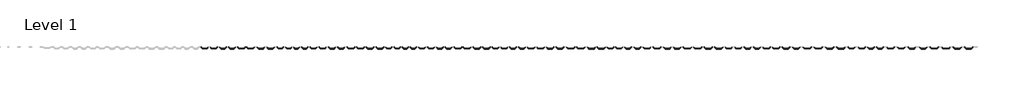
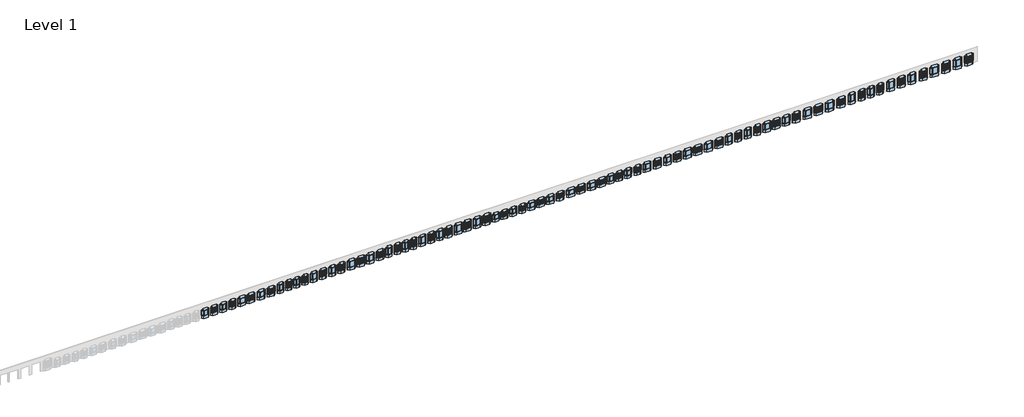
# One storey, part 3 of 3: 80 windows.
"""IFC4 building model written with IfcOpenShell, lengths in millimetres."""

from ifc_helpers import new_model, si_unit, origin, place, context, project, spatial, transform, mapped, element, save
from components import window_b3cdb5a9, window_79abd984, window_b84ada9c, window_0a0b4244, window_ffd23e29, window_b7071a71, window_51384c38, window_a97668ed, window_4685a1be, window_b467f3d1, window_911a515b, window_a070897f, window_e42af8b7, window_e2e8d029, window_58309fd9, window_9b99bb87, window_9a71cae8, window_7f477332, window_fa37bd7c, window_9950a577, window_3bc9b1b7, window_d25a807c, window_addcb749, window_82c581ba, window_94679562, window_69b66f9a, window_eb827597, window_abdb0844, window_93243faa, window_77bf9d07, window_c10b418e, window_131a28d9, window_a5539cdd, window_bb3dbd00, window_e7f25935, window_85a7261f, window_b54664bb, window_ae849061, window_5621af8d, window_e6824027, window_450d49d1, window_b217e473, window_dcdb2d5c, window_eaa9a0c1, window_20f38846, window_5c7470a3, window_c93a87d1, window_a6beb64d, window_daea6f64, window_c85f83c4, window_12b3202e, window_4e539d59, window_95a81073, window_6308ce5a, window_9d663ffc, window_a5e491d9, window_10bc7acf, window_82674c59, window_b25b2941, window_9915bfea, window_99be7a66, window_0feb7d22, window_bf1c5495, window_cf54c3e9, window_64da6ce3, window_401ed5cd, window_cd033d19, window_9ae6f43e, window_1f869f44, window_09736f41, window_0206066c, window_1608441a, window_fa84ad74, window_845785dd, window_687f70c3, window_4135a6ea, window_84a63f59, window_98602385, window_b4091702, window_76903604

model = new_model("IFC4")

# Units and contexts
model_context = context("Model", 3, world=origin())
ifc_project = project(units=[si_unit("LENGTHUNIT", "METRE", prefix="MILLI")], contexts=[model_context])

# Site, building, storey
site = spatial("IfcSite", under=ifc_project)
building = spatial("IfcBuilding", under=site)
storey = spatial("IfcBuildingStorey", under=building, Name="Level 1", Elevation=0.0)

# Windows
placement = place(None, origin())
window_shape = window_b3cdb5a9(model_context)
element("IfcWindow", 1, ObjectType="Pollard_Windows_Tudor Casement Bows and Bays : AML-BAY 45 AFR0514-10-500", at=placement, inside=storey, context=model_context, shape_type="MappedRepresentation", body=[
    mapped(window_shape, transform((183351.4233676, -2742.926046, 0.0), x_axis=(1.0, 0.0, 0.0), y_axis=(0.0, 1.0, 0.0), z_axis=(0.0, 0.0, 1.0))),
])
window_2_shape = window_79abd984(model_context)
element("IfcWindow", 2, ObjectType="Pollard_Windows_Tudor Casement Bows and Bays : AML-BAY 45 AFR0514-10-500_GC", at=placement, inside=storey, context=model_context, shape_type="MappedRepresentation", body=[
    mapped(window_2_shape, transform((185751.4233676, -2742.926046, 0.0), x_axis=(1.0, 0.0, 0.0), y_axis=(0.0, 1.0, 0.0), z_axis=(0.0, 0.0, 1.0))),
])
window_3_shape = window_b84ada9c(model_context)
element("IfcWindow", 3, ObjectType="Pollard_Windows_Tudor Casement Bows and Bays : AML-BAY 45 AFR0514-10-600", at=placement, inside=storey, context=model_context, shape_type="MappedRepresentation", body=[
    mapped(window_3_shape, transform((188151.4233676, -2742.926046, 0.0), x_axis=(1.0, 0.0, 0.0), y_axis=(0.0, 1.0, 0.0), z_axis=(0.0, 0.0, 1.0))),
])
window_4_shape = window_0a0b4244(model_context)
element("IfcWindow", 4, ObjectType="Pollard_Windows_Tudor Casement Bows and Bays : AML-BAY 45 AFR0514-10-600_GC", at=placement, inside=storey, context=model_context, shape_type="MappedRepresentation", body=[
    mapped(window_4_shape, transform((190551.4233676, -2742.926046, 0.0), x_axis=(1.0, 0.0, 0.0), y_axis=(0.0, 1.0, 0.0), z_axis=(0.0, 0.0, 1.0))),
])
window_5_shape = window_ffd23e29(model_context)
element("IfcWindow", 5, ObjectType="Pollard_Windows_Tudor Casement Bows and Bays : AML-BAY 45 AFR0514-12-500", at=placement, inside=storey, context=model_context, shape_type="MappedRepresentation", body=[
    mapped(window_5_shape, transform((193051.4233676, -2742.926046, 0.0), x_axis=(1.0, 0.0, 0.0), y_axis=(0.0, 1.0, 0.0), z_axis=(0.0, 0.0, 1.0))),
])
window_6_shape = window_b7071a71(model_context)
element("IfcWindow", 6, ObjectType="Pollard_Windows_Tudor Casement Bows and Bays : AML-BAY 45 AFR0514-12-500_GC", at=placement, inside=storey, context=model_context, shape_type="MappedRepresentation", body=[
    mapped(window_6_shape, transform((195451.4233676, -2742.926046, 0.0), x_axis=(1.0, 0.0, 0.0), y_axis=(0.0, 1.0, 0.0), z_axis=(0.0, 0.0, 1.0))),
])
window_7_shape = window_51384c38(model_context)
element("IfcWindow", 7, ObjectType="Pollard_Windows_Tudor Casement Bows and Bays : AML-BAY 45 AFR0514-12-600", at=placement, inside=storey, context=model_context, shape_type="MappedRepresentation", body=[
    mapped(window_7_shape, transform((198151.4233676, -2742.926046, 0.0), x_axis=(1.0, 0.0, 0.0), y_axis=(0.0, 1.0, 0.0), z_axis=(0.0, 0.0, 1.0))),
])
window_8_shape = window_a97668ed(model_context)
element("IfcWindow", 8, ObjectType="Pollard_Windows_Tudor Casement Bows and Bays : AML-BAY 45 AFR0514-12-600_GC", at=placement, inside=storey, context=model_context, shape_type="MappedRepresentation", body=[
    mapped(window_8_shape, transform((200751.4233676, -2742.926046, 0.0), x_axis=(1.0, 0.0, 0.0), y_axis=(0.0, 1.0, 0.0), z_axis=(0.0, 0.0, 1.0))),
])
window_9_shape = window_4685a1be(model_context)
element("IfcWindow", 9, ObjectType="Pollard_Windows_Tudor Casement Bows and Bays : AML-BAY 45 AFR0516-08-500", at=placement, inside=storey, context=model_context, shape_type="MappedRepresentation", body=[
    mapped(window_9_shape, transform((203251.4233676, -2742.926046, 0.0), x_axis=(1.0, 0.0, 0.0), y_axis=(0.0, 1.0, 0.0), z_axis=(0.0, 0.0, 1.0))),
])
window_10_shape = window_b467f3d1(model_context)
element("IfcWindow", 10, ObjectType="Pollard_Windows_Tudor Casement Bows and Bays : AML-BAY 45 AFR0516-08-500_GC", at=placement, inside=storey, context=model_context, shape_type="MappedRepresentation", body=[
    mapped(window_10_shape, transform((205451.4233676, -2742.926046, 0.0), x_axis=(1.0, 0.0, 0.0), y_axis=(0.0, 1.0, 0.0), z_axis=(0.0, 0.0, 1.0))),
])
window_11_shape = window_911a515b(model_context)
element("IfcWindow", 11, ObjectType="Pollard_Windows_Tudor Casement Bows and Bays : AML-BAY 45 AFR0516-08-600", at=placement, inside=storey, context=model_context, shape_type="MappedRepresentation", body=[
    mapped(window_11_shape, transform((207551.4233676, -2742.926046, 0.0), x_axis=(1.0, 0.0, 0.0), y_axis=(0.0, 1.0, 0.0), z_axis=(0.0, 0.0, 1.0))),
])
window_12_shape = window_a070897f(model_context)
element("IfcWindow", 12, ObjectType="Pollard_Windows_Tudor Casement Bows and Bays : AML-BAY 45 AFR0516-08-600_GC", at=placement, inside=storey, context=model_context, shape_type="MappedRepresentation", body=[
    mapped(window_12_shape, transform((209751.4233676, -2742.926046, 0.0), x_axis=(1.0, 0.0, 0.0), y_axis=(0.0, 1.0, 0.0), z_axis=(0.0, 0.0, 1.0))),
])
window_13_shape = window_e42af8b7(model_context)
element("IfcWindow", 13, ObjectType="Pollard_Windows_Tudor Casement Bows and Bays : AML-BAY 45 AFR0516-10-500", at=placement, inside=storey, context=model_context, shape_type="MappedRepresentation", body=[
    mapped(window_13_shape, transform((212051.4233676, -2742.926046, 0.0), x_axis=(1.0, 0.0, 0.0), y_axis=(0.0, 1.0, 0.0), z_axis=(0.0, 0.0, 1.0))),
])
window_14_shape = window_e2e8d029(model_context)
element("IfcWindow", 14, ObjectType="Pollard_Windows_Tudor Casement Bows and Bays : AML-BAY 45 AFR0516-10-500_GC", at=placement, inside=storey, context=model_context, shape_type="MappedRepresentation", body=[
    mapped(window_14_shape, transform((214451.4233676, -2742.926046, 0.0), x_axis=(1.0, 0.0, 0.0), y_axis=(0.0, 1.0, 0.0), z_axis=(0.0, 0.0, 1.0))),
])
window_15_shape = window_58309fd9(model_context)
element("IfcWindow", 15, ObjectType="Pollard_Windows_Tudor Casement Bows and Bays : AML-BAY 45 AFR0516-10-600", at=placement, inside=storey, context=model_context, shape_type="MappedRepresentation", body=[
    mapped(window_15_shape, transform((216951.4233676, -2742.926046, 0.0), x_axis=(1.0, 0.0, 0.0), y_axis=(0.0, 1.0, 0.0), z_axis=(0.0, 0.0, 1.0))),
])
window_16_shape = window_9b99bb87(model_context)
element("IfcWindow", 16, ObjectType="Pollard_Windows_Tudor Casement Bows and Bays : AML-BAY 45 AFR0516-10-600_GC", at=placement, inside=storey, context=model_context, shape_type="MappedRepresentation", body=[
    mapped(window_16_shape, transform((219351.4233676, -2742.926046, 0.0), x_axis=(1.0, 0.0, 0.0), y_axis=(0.0, 1.0, 0.0), z_axis=(0.0, 0.0, 1.0))),
])
window_17_shape = window_9a71cae8(model_context)
element("IfcWindow", 17, ObjectType="Pollard_Windows_Tudor Casement Bows and Bays : AML-BAY 45 AFR0516-12-500", at=placement, inside=storey, context=model_context, shape_type="MappedRepresentation", body=[
    mapped(window_17_shape, transform((221951.4233676, -2742.926046, 0.0), x_axis=(1.0, 0.0, 0.0), y_axis=(0.0, 1.0, 0.0), z_axis=(0.0, 0.0, 1.0))),
])
window_18_shape = window_7f477332(model_context)
element("IfcWindow", 18, ObjectType="Pollard_Windows_Tudor Casement Bows and Bays : AML-BAY 45 AFR0516-12-500_GC", at=placement, inside=storey, context=model_context, shape_type="MappedRepresentation", body=[
    mapped(window_18_shape, transform((224451.4233676, -2742.926046, 0.0), x_axis=(1.0, 0.0, 0.0), y_axis=(0.0, 1.0, 0.0), z_axis=(0.0, 0.0, 1.0))),
])
window_19_shape = window_fa37bd7c(model_context)
element("IfcWindow", 19, ObjectType="Pollard_Windows_Tudor Casement Bows and Bays : AML-BAY 45 AFR0516-12-600", at=placement, inside=storey, context=model_context, shape_type="MappedRepresentation", body=[
    mapped(window_19_shape, transform((226951.4233676, -2742.926046, 0.0), x_axis=(1.0, 0.0, 0.0), y_axis=(0.0, 1.0, 0.0), z_axis=(0.0, 0.0, 1.0))),
])
window_20_shape = window_9950a577(model_context)
element("IfcWindow", 20, ObjectType="Pollard_Windows_Tudor Casement Bows and Bays : AML-BAY 45 AFR0516-12-600_GC", at=placement, inside=storey, context=model_context, shape_type="MappedRepresentation", body=[
    mapped(window_20_shape, transform((229551.4233676, -2742.926046, 0.0), x_axis=(-1.0, 0.0, 0.0), y_axis=(0.0, -1.0, 0.0), z_axis=(0.0, 0.0, 1.0))),
])
window_21_shape = window_3bc9b1b7(model_context)
element("IfcWindow", 21, ObjectType="Pollard_Windows_Tudor Casement Bows and Bays : AML-BAY 45 AFR0518-08-500", at=placement, inside=storey, context=model_context, shape_type="MappedRepresentation", body=[
    mapped(window_21_shape, transform((231851.4233676, -2742.926046, 0.0), x_axis=(1.0, 0.0, 0.0), y_axis=(0.0, 1.0, 0.0), z_axis=(0.0, 0.0, 1.0))),
])
window_22_shape = window_d25a807c(model_context)
element("IfcWindow", 22, ObjectType="Pollard_Windows_Tudor Casement Bows and Bays : AML-BAY 45 AFR0518-08-500_GC", at=placement, inside=storey, context=model_context, shape_type="MappedRepresentation", body=[
    mapped(window_22_shape, transform((234151.4233676, -2742.926046, 0.0), x_axis=(1.0, 0.0, 0.0), y_axis=(0.0, 1.0, 0.0), z_axis=(0.0, 0.0, 1.0))),
])
window_23_shape = window_addcb749(model_context)
element("IfcWindow", 23, ObjectType="Pollard_Windows_Tudor Casement Bows and Bays : AML-BAY 45 AFR0518-08-600", at=placement, inside=storey, context=model_context, shape_type="MappedRepresentation", body=[
    mapped(window_23_shape, transform((236251.4233676, -2742.926046, 0.0), x_axis=(1.0, 0.0, 0.0), y_axis=(0.0, 1.0, 0.0), z_axis=(0.0, 0.0, 1.0))),
])
window_24_shape = window_82c581ba(model_context)
element("IfcWindow", 24, ObjectType="Pollard_Windows_Tudor Casement Bows and Bays : AML-BAY 45 AFR0518-08-600_GC", at=placement, inside=storey, context=model_context, shape_type="MappedRepresentation", body=[
    mapped(window_24_shape, transform((238351.4233676, -2742.926046, 0.0), x_axis=(1.0, 0.0, 0.0), y_axis=(0.0, 1.0, 0.0), z_axis=(0.0, 0.0, 1.0))),
])
window_25_shape = window_94679562(model_context)
element("IfcWindow", 25, ObjectType="Pollard_Windows_Tudor Casement Bows and Bays : AML-BAY 45 AFR0518-10-500", at=placement, inside=storey, context=model_context, shape_type="MappedRepresentation", body=[
    mapped(window_25_shape, transform((240651.4233676, -2742.926046, 0.0), x_axis=(1.0, 0.0, 0.0), y_axis=(0.0, 1.0, 0.0), z_axis=(0.0, 0.0, 1.0))),
])
window_26_shape = window_69b66f9a(model_context)
element("IfcWindow", 26, ObjectType="Pollard_Windows_Tudor Casement Bows and Bays : AML-BAY 45 AFR0518-10-500_GC", at=placement, inside=storey, context=model_context, shape_type="MappedRepresentation", body=[
    mapped(window_26_shape, transform((243051.4233676, -2742.926046, 0.0), x_axis=(1.0, 0.0, 0.0), y_axis=(0.0, 1.0, 0.0), z_axis=(0.0, 0.0, 1.0))),
])
window_27_shape = window_eb827597(model_context)
element("IfcWindow", 27, ObjectType="Pollard_Windows_Tudor Casement Bows and Bays : AML-BAY 45 AFR0518-10-600", at=placement, inside=storey, context=model_context, shape_type="MappedRepresentation", body=[
    mapped(window_27_shape, transform((245351.4233676, -2742.926046, 0.0), x_axis=(1.0, 0.0, 0.0), y_axis=(0.0, 1.0, 0.0), z_axis=(0.0, 0.0, 1.0))),
])
window_28_shape = window_abdb0844(model_context)
element("IfcWindow", 28, ObjectType="Pollard_Windows_Tudor Casement Bows and Bays : AML-BAY 45 AFR0518-10-600_GC", at=placement, inside=storey, context=model_context, shape_type="MappedRepresentation", body=[
    mapped(window_28_shape, transform((247651.4233676, -2742.926046, 0.0), x_axis=(1.0, 0.0, 0.0), y_axis=(0.0, 1.0, 0.0), z_axis=(0.0, 0.0, 1.0))),
])
window_29_shape = window_93243faa(model_context)
element("IfcWindow", 29, ObjectType="Pollard_Windows_Tudor Casement Bows and Bays : AML-BAY 45 AFR0518-12-500", at=placement, inside=storey, context=model_context, shape_type="MappedRepresentation", body=[
    mapped(window_29_shape, transform((250151.4233676, -2742.926046, 0.0), x_axis=(-1.0, 0.0, 0.0), y_axis=(0.0, -1.0, 0.0), z_axis=(0.0, 0.0, 1.0))),
])
window_30_shape = window_77bf9d07(model_context)
element("IfcWindow", 30, ObjectType="Pollard_Windows_Tudor Casement Bows and Bays : AML-BAY 45 AFR0518-12-500_GC", at=placement, inside=storey, context=model_context, shape_type="MappedRepresentation", body=[
    mapped(window_30_shape, transform((252551.4233676, -2742.926046, 0.0), x_axis=(1.0, 0.0, 0.0), y_axis=(0.0, 1.0, 0.0), z_axis=(0.0, 0.0, 1.0))),
])
window_31_shape = window_c10b418e(model_context)
element("IfcWindow", 31, ObjectType="Pollard_Windows_Tudor Casement Bows and Bays : AML-BAY 45 AFR0518-12-600", at=placement, inside=storey, context=model_context, shape_type="MappedRepresentation", body=[
    mapped(window_31_shape, transform((255151.4233676, -2742.926046, 0.0), x_axis=(1.0, 0.0, 0.0), y_axis=(0.0, 1.0, 0.0), z_axis=(0.0, 0.0, 1.0))),
])
window_32_shape = window_131a28d9(model_context)
element("IfcWindow", 32, ObjectType="Pollard_Windows_Tudor Casement Bows and Bays : AML-BAY 45 AFR0518-12-600_GC", at=placement, inside=storey, context=model_context, shape_type="MappedRepresentation", body=[
    mapped(window_32_shape, transform((257651.4233676, -2742.926046, 0.0), x_axis=(1.0, 0.0, 0.0), y_axis=(0.0, 1.0, 0.0), z_axis=(0.0, 0.0, 1.0))),
])
window_33_shape = window_a5539cdd(model_context)
element("IfcWindow", 33, ObjectType="Pollard_Windows_Tudor Casement Bows and Bays : AML-BAY 45 AFR0612-08-500", at=placement, inside=storey, context=model_context, shape_type="MappedRepresentation", body=[
    mapped(window_33_shape, transform((260051.4233676, -2742.926046, 0.0), x_axis=(1.0, 0.0, 0.0), y_axis=(0.0, 1.0, 0.0), z_axis=(0.0, 0.0, 1.0))),
])
window_34_shape = window_bb3dbd00(model_context)
element("IfcWindow", 34, ObjectType="Pollard_Windows_Tudor Casement Bows and Bays : AML-BAY 45 AFR0612-08-500_GC", at=placement, inside=storey, context=model_context, shape_type="MappedRepresentation", body=[
    mapped(window_34_shape, transform((262351.4233676, -2742.926046, 0.0), x_axis=(1.0, 0.0, 0.0), y_axis=(0.0, 1.0, 0.0), z_axis=(0.0, 0.0, 1.0))),
])
window_35_shape = window_e7f25935(model_context)
element("IfcWindow", 35, ObjectType="Pollard_Windows_Tudor Casement Bows and Bays : AML-BAY 45 AFR0612-08-600", at=placement, inside=storey, context=model_context, shape_type="MappedRepresentation", body=[
    mapped(window_35_shape, transform((264651.4233676, -2742.926046, 0.0), x_axis=(1.0, 0.0, 0.0), y_axis=(0.0, 1.0, 0.0), z_axis=(0.0, 0.0, 1.0))),
])
window_36_shape = window_85a7261f(model_context)
element("IfcWindow", 36, ObjectType="Pollard_Windows_Tudor Casement Bows and Bays : AML-BAY 45 AFR0612-08-600_GC", at=placement, inside=storey, context=model_context, shape_type="MappedRepresentation", body=[
    mapped(window_36_shape, transform((267051.4233676, -2742.926046, 0.0), x_axis=(1.0, 0.0, 0.0), y_axis=(0.0, 1.0, 0.0), z_axis=(0.0, 0.0, 1.0))),
])
window_37_shape = window_b54664bb(model_context)
element("IfcWindow", 37, ObjectType="Pollard_Windows_Tudor Casement Bows and Bays : AML-BAY 45 AFR0612-10-500", at=placement, inside=storey, context=model_context, shape_type="MappedRepresentation", body=[
    mapped(window_37_shape, transform((269451.4233676, -2742.926046, 0.0), x_axis=(-1.0, 0.0, 0.0), y_axis=(0.0, -1.0, 0.0), z_axis=(0.0, 0.0, 1.0))),
])
window_38_shape = window_ae849061(model_context)
element("IfcWindow", 38, ObjectType="Pollard_Windows_Tudor Casement Bows and Bays : AML-BAY 45 AFR0612-10-500_GC", at=placement, inside=storey, context=model_context, shape_type="MappedRepresentation", body=[
    mapped(window_38_shape, transform((271951.4233676, -2742.926046, 0.0), x_axis=(1.0, 0.0, 0.0), y_axis=(0.0, 1.0, 0.0), z_axis=(0.0, 0.0, 1.0))),
])
window_39_shape = window_5621af8d(model_context)
element("IfcWindow", 39, ObjectType="Pollard_Windows_Tudor Casement Bows and Bays : AML-BAY 45 AFR0612-10-600", at=placement, inside=storey, context=model_context, shape_type="MappedRepresentation", body=[
    mapped(window_39_shape, transform((274451.4233676, -2742.926046, 0.0), x_axis=(1.0, 0.0, 0.0), y_axis=(0.0, 1.0, 0.0), z_axis=(0.0, 0.0, 1.0))),
])
window_40_shape = window_e6824027(model_context)
element("IfcWindow", 40, ObjectType="Pollard_Windows_Tudor Casement Bows and Bays : AML-BAY 45 AFR0612-10-600_GC", at=placement, inside=storey, context=model_context, shape_type="MappedRepresentation", body=[
    mapped(window_40_shape, transform((277051.4233676, -2742.926046, 0.0), x_axis=(1.0, 0.0, 0.0), y_axis=(0.0, 1.0, 0.0), z_axis=(0.0, 0.0, 1.0))),
])
window_41_shape = window_450d49d1(model_context)
element("IfcWindow", 41, ObjectType="Pollard_Windows_Tudor Casement Bows and Bays : AML-BAY 45 AFR0612-12-500", at=placement, inside=storey, context=model_context, shape_type="MappedRepresentation", body=[
    mapped(window_41_shape, transform((279851.4233676, -2742.926046, 0.0), x_axis=(1.0, 0.0, 0.0), y_axis=(0.0, 1.0, 0.0), z_axis=(0.0, 0.0, 1.0))),
])
window_42_shape = window_b217e473(model_context)
element("IfcWindow", 42, ObjectType="Pollard_Windows_Tudor Casement Bows and Bays : AML-BAY 45 AFR0612-12-500_GC", at=placement, inside=storey, context=model_context, shape_type="MappedRepresentation", body=[
    mapped(window_42_shape, transform((282551.4233676, -2742.926046, 0.0), x_axis=(1.0, 0.0, 0.0), y_axis=(0.0, 1.0, 0.0), z_axis=(0.0, 0.0, 1.0))),
])
window_43_shape = window_dcdb2d5c(model_context)
element("IfcWindow", 43, ObjectType="Pollard_Windows_Tudor Casement Bows and Bays : AML-BAY 45 AFR0612-12-600", at=placement, inside=storey, context=model_context, shape_type="MappedRepresentation", body=[
    mapped(window_43_shape, transform((285351.4233676, -2742.926046, 0.0), x_axis=(1.0, 0.0, 0.0), y_axis=(0.0, 1.0, 0.0), z_axis=(0.0, 0.0, 1.0))),
])
window_44_shape = window_eaa9a0c1(model_context)
element("IfcWindow", 44, ObjectType="Pollard_Windows_Tudor Casement Bows and Bays : AML-BAY 45 AFR0612-12-600_GC", at=placement, inside=storey, context=model_context, shape_type="MappedRepresentation", body=[
    mapped(window_44_shape, transform((287951.4233676, -2742.926046, 0.0), x_axis=(1.0, 0.0, 0.0), y_axis=(0.0, 1.0, 0.0), z_axis=(0.0, 0.0, 1.0))),
])
window_45_shape = window_20f38846(model_context)
element("IfcWindow", 45, ObjectType="Pollard_Windows_Tudor Casement Bows and Bays : AML-BAY 45 AFR0614-08-500", at=placement, inside=storey, context=model_context, shape_type="MappedRepresentation", body=[
    mapped(window_45_shape, transform((290351.4233676, -2742.926046, 0.0), x_axis=(1.0, 0.0, 0.0), y_axis=(0.0, 1.0, 0.0), z_axis=(0.0, 0.0, 1.0))),
])
window_46_shape = window_5c7470a3(model_context)
element("IfcWindow", 46, ObjectType="Pollard_Windows_Tudor Casement Bows and Bays : AML-BAY 45 AFR0614-08-500_GC", at=placement, inside=storey, context=model_context, shape_type="MappedRepresentation", body=[
    mapped(window_46_shape, transform((292651.4233676, -2742.926046, 0.0), x_axis=(1.0, 0.0, 0.0), y_axis=(0.0, 1.0, 0.0), z_axis=(0.0, 0.0, 1.0))),
])
window_47_shape = window_c93a87d1(model_context)
element("IfcWindow", 47, ObjectType="Pollard_Windows_Tudor Casement Bows and Bays : AML-BAY 45 AFR0614-08-600", at=placement, inside=storey, context=model_context, shape_type="MappedRepresentation", body=[
    mapped(window_47_shape, transform((294951.4233676, -2742.926046, 0.0), x_axis=(1.0, 0.0, 0.0), y_axis=(0.0, 1.0, 0.0), z_axis=(0.0, 0.0, 1.0))),
])
window_48_shape = window_a6beb64d(model_context)
element("IfcWindow", 48, ObjectType="Pollard_Windows_Tudor Casement Bows and Bays : AML-BAY 45 AFR0614-08-600_GC", at=placement, inside=storey, context=model_context, shape_type="MappedRepresentation", body=[
    mapped(window_48_shape, transform((297451.4233676, -2742.926046, 0.0), x_axis=(1.0, 0.0, 0.0), y_axis=(0.0, 1.0, 0.0), z_axis=(0.0, 0.0, 1.0))),
])
window_49_shape = window_daea6f64(model_context)
element("IfcWindow", 49, ObjectType="Pollard_Windows_Tudor Casement Bows and Bays : AML-BAY 45 AFR0614-10-500", at=placement, inside=storey, context=model_context, shape_type="MappedRepresentation", body=[
    mapped(window_49_shape, transform((299951.4233676, -2742.926046, 0.0), x_axis=(1.0, 0.0, 0.0), y_axis=(0.0, 1.0, 0.0), z_axis=(0.0, 0.0, 1.0))),
])
window_50_shape = window_c85f83c4(model_context)
element("IfcWindow", 50, ObjectType="Pollard_Windows_Tudor Casement Bows and Bays : AML-BAY 45 AFR0614-10-500_GC", at=placement, inside=storey, context=model_context, shape_type="MappedRepresentation", body=[
    mapped(window_50_shape, transform((302651.4233676, -2742.926046, 0.0), x_axis=(1.0, 0.0, 0.0), y_axis=(0.0, 1.0, 0.0), z_axis=(0.0, 0.0, 1.0))),
])
window_51_shape = window_12b3202e(model_context)
element("IfcWindow", 51, ObjectType="Pollard_Windows_Tudor Casement Bows and Bays : AML-BAY 45 AFR0614-10-600", at=placement, inside=storey, context=model_context, shape_type="MappedRepresentation", body=[
    mapped(window_51_shape, transform((305351.4233676, -2742.926046, 0.0), x_axis=(1.0, 0.0, 0.0), y_axis=(0.0, 1.0, 0.0), z_axis=(0.0, 0.0, 1.0))),
])
window_52_shape = window_4e539d59(model_context)
element("IfcWindow", 52, ObjectType="Pollard_Windows_Tudor Casement Bows and Bays : AML-BAY 45 AFR0614-10-600_GC", at=placement, inside=storey, context=model_context, shape_type="MappedRepresentation", body=[
    mapped(window_52_shape, transform((307951.4233676, -2742.926046, 0.0), x_axis=(1.0, 0.0, 0.0), y_axis=(0.0, 1.0, 0.0), z_axis=(0.0, 0.0, 1.0))),
])
window_53_shape = window_95a81073(model_context)
element("IfcWindow", 53, ObjectType="Pollard_Windows_Tudor Casement Bows and Bays : AML-BAY 45 AFR0614-12-500", at=placement, inside=storey, context=model_context, shape_type="MappedRepresentation", body=[
    mapped(window_53_shape, transform((310651.4233676, -2742.926046, 0.0), x_axis=(1.0, 0.0, 0.0), y_axis=(0.0, 1.0, 0.0), z_axis=(0.0, 0.0, 1.0))),
])
window_54_shape = window_6308ce5a(model_context)
element("IfcWindow", 54, ObjectType="Pollard_Windows_Tudor Casement Bows and Bays : AML-BAY 45 AFR0614-12-500_GC", at=placement, inside=storey, context=model_context, shape_type="MappedRepresentation", body=[
    mapped(window_54_shape, transform((313351.4233676, -2742.926046, 0.0), x_axis=(1.0, 0.0, 0.0), y_axis=(0.0, 1.0, 0.0), z_axis=(0.0, 0.0, 1.0))),
])
window_55_shape = window_9d663ffc(model_context)
element("IfcWindow", 55, ObjectType="Pollard_Windows_Tudor Casement Bows and Bays : AML-BAY 45 AFR0614-12-600", at=placement, inside=storey, context=model_context, shape_type="MappedRepresentation", body=[
    mapped(window_55_shape, transform((316151.4233676, -2742.926046, 0.0), x_axis=(1.0, 0.0, 0.0), y_axis=(0.0, 1.0, 0.0), z_axis=(0.0, 0.0, 1.0))),
])
window_56_shape = window_a5e491d9(model_context)
element("IfcWindow", 56, ObjectType="Pollard_Windows_Tudor Casement Bows and Bays : AML-BAY 45 AFR0614-12-600_GC", at=placement, inside=storey, context=model_context, shape_type="MappedRepresentation", body=[
    mapped(window_56_shape, transform((318951.4233676, -2742.926046, 0.0), x_axis=(1.0, 0.0, 0.0), y_axis=(0.0, 1.0, 0.0), z_axis=(0.0, 0.0, 1.0))),
])
window_57_shape = window_10bc7acf(model_context)
element("IfcWindow", 57, ObjectType="Pollard_Windows_Tudor Casement Bows and Bays : AML-BAY 45 AFR0616-08-500", at=placement, inside=storey, context=model_context, shape_type="MappedRepresentation", body=[
    mapped(window_57_shape, transform((321551.4233676, -2742.926046, 0.0), x_axis=(1.0, 0.0, 0.0), y_axis=(0.0, 1.0, 0.0), z_axis=(0.0, 0.0, 1.0))),
])
window_58_shape = window_82674c59(model_context)
element("IfcWindow", 58, ObjectType="Pollard_Windows_Tudor Casement Bows and Bays : AML-BAY 45 AFR0616-08-500_GC", at=placement, inside=storey, context=model_context, shape_type="MappedRepresentation", body=[
    mapped(window_58_shape, transform((324051.4233676, -2742.926046, 0.0), x_axis=(1.0, 0.0, 0.0), y_axis=(0.0, 1.0, 0.0), z_axis=(0.0, 0.0, 1.0))),
])
window_59_shape = window_b25b2941(model_context)
element("IfcWindow", 59, ObjectType="Pollard_Windows_Tudor Casement Bows and Bays : AML-BAY 45 AFR0616-08-600", at=placement, inside=storey, context=model_context, shape_type="MappedRepresentation", body=[
    mapped(window_59_shape, transform((326551.4233676, -2742.926046, 0.0), x_axis=(1.0, 0.0, 0.0), y_axis=(0.0, 1.0, 0.0), z_axis=(0.0, 0.0, 1.0))),
])
window_60_shape = window_9915bfea(model_context)
element("IfcWindow", 60, ObjectType="Pollard_Windows_Tudor Casement Bows and Bays : AML-BAY 45 AFR0616-08-600_GC", at=placement, inside=storey, context=model_context, shape_type="MappedRepresentation", body=[
    mapped(window_60_shape, transform((329051.4233676, -2742.926046, 0.0), x_axis=(1.0, 0.0, 0.0), y_axis=(0.0, 1.0, 0.0), z_axis=(0.0, 0.0, 1.0))),
])
window_61_shape = window_99be7a66(model_context)
element("IfcWindow", 61, ObjectType="Pollard_Windows_Tudor Casement Bows and Bays : AML-BAY 45 AFR0616-10-500", at=placement, inside=storey, context=model_context, shape_type="MappedRepresentation", body=[
    mapped(window_61_shape, transform((331551.4233676, -2742.926046, 0.0), x_axis=(1.0, 0.0, 0.0), y_axis=(0.0, 1.0, 0.0), z_axis=(0.0, 0.0, 1.0))),
])
window_62_shape = window_0feb7d22(model_context)
element("IfcWindow", 62, ObjectType="Pollard_Windows_Tudor Casement Bows and Bays : AML-BAY 45 AFR0616-10-500_GC", at=placement, inside=storey, context=model_context, shape_type="MappedRepresentation", body=[
    mapped(window_62_shape, transform((334051.4233676, -2742.926046, 0.0), x_axis=(1.0, 0.0, 0.0), y_axis=(0.0, 1.0, 0.0), z_axis=(0.0, 0.0, 1.0))),
])
window_63_shape = window_bf1c5495(model_context)
element("IfcWindow", 63, ObjectType="Pollard_Windows_Tudor Casement Bows and Bays : AML-BAY 45 AFR0616-10-600", at=placement, inside=storey, context=model_context, shape_type="MappedRepresentation", body=[
    mapped(window_63_shape, transform((336651.4233676, -2742.926046, 0.0), x_axis=(-1.0, 0.0, 0.0), y_axis=(0.0, -1.0, 0.0), z_axis=(0.0, 0.0, 1.0))),
])
window_64_shape = window_cf54c3e9(model_context)
element("IfcWindow", 64, ObjectType="Pollard_Windows_Tudor Casement Bows and Bays : AML-BAY 45 AFR0616-10-600_GC", at=placement, inside=storey, context=model_context, shape_type="MappedRepresentation", body=[
    mapped(window_64_shape, transform((339351.4233676, -2742.926046, 0.0), x_axis=(1.0, 0.0, 0.0), y_axis=(0.0, 1.0, 0.0), z_axis=(0.0, 0.0, 1.0))),
])
window_65_shape = window_64da6ce3(model_context)
element("IfcWindow", 65, ObjectType="Pollard_Windows_Tudor Casement Bows and Bays : AML-BAY 45 AFR0616-12-500", at=placement, inside=storey, context=model_context, shape_type="MappedRepresentation", body=[
    mapped(window_65_shape, transform((342251.4233676, -2742.926046, 0.0), x_axis=(1.0, 0.0, 0.0), y_axis=(0.0, 1.0, 0.0), z_axis=(0.0, 0.0, 1.0))),
])
window_66_shape = window_401ed5cd(model_context)
element("IfcWindow", 66, ObjectType="Pollard_Windows_Tudor Casement Bows and Bays : AML-BAY 45 AFR0616-12-500_GC", at=placement, inside=storey, context=model_context, shape_type="MappedRepresentation", body=[
    mapped(window_66_shape, transform((345151.4233676, -2742.926046, 0.0), x_axis=(-1.0, 0.0, 0.0), y_axis=(0.0, -1.0, 0.0), z_axis=(0.0, 0.0, 1.0))),
])
window_67_shape = window_cd033d19(model_context)
element("IfcWindow", 67, ObjectType="Pollard_Windows_Tudor Casement Bows and Bays : AML-BAY 45 AFR0616-12-600", at=placement, inside=storey, context=model_context, shape_type="MappedRepresentation", body=[
    mapped(window_67_shape, transform((348151.4233676, -2742.926046, 0.0), x_axis=(1.0, 0.0, 0.0), y_axis=(0.0, 1.0, 0.0), z_axis=(0.0, 0.0, 1.0))),
])
window_68_shape = window_9ae6f43e(model_context)
element("IfcWindow", 68, ObjectType="Pollard_Windows_Tudor Casement Bows and Bays : AML-BAY 45 AFR0616-12-600_GC", at=placement, inside=storey, context=model_context, shape_type="MappedRepresentation", body=[
    mapped(window_68_shape, transform((351151.4233676, -2742.926046, 0.0), x_axis=(1.0, 0.0, 0.0), y_axis=(0.0, 1.0, 0.0), z_axis=(0.0, 0.0, 1.0))),
])
window_69_shape = window_1f869f44(model_context)
element("IfcWindow", 69, ObjectType="Pollard_Windows_Tudor Casement Bows and Bays : AML-BAY 45 AFR0618-08-500", at=placement, inside=storey, context=model_context, shape_type="MappedRepresentation", body=[
    mapped(window_69_shape, transform((353951.4233676, -2742.926046, 0.0), x_axis=(1.0, 0.0, 0.0), y_axis=(0.0, 1.0, 0.0), z_axis=(0.0, 0.0, 1.0))),
])
window_70_shape = window_09736f41(model_context)
element("IfcWindow", 70, ObjectType="Pollard_Windows_Tudor Casement Bows and Bays : AML-BAY 45 AFR0618-08-500_GC", at=placement, inside=storey, context=model_context, shape_type="MappedRepresentation", body=[
    mapped(window_70_shape, transform((356651.4233676, -2742.926046, 0.0), x_axis=(1.0, 0.0, 0.0), y_axis=(0.0, 1.0, 0.0), z_axis=(0.0, 0.0, 1.0))),
])
window_71_shape = window_0206066c(model_context)
element("IfcWindow", 71, ObjectType="Pollard_Windows_Tudor Casement Bows and Bays : AML-BAY 45 AFR0618-08-600", at=placement, inside=storey, context=model_context, shape_type="MappedRepresentation", body=[
    mapped(window_71_shape, transform((359051.4233676, -2742.926046, 0.0), x_axis=(1.0, 0.0, 0.0), y_axis=(0.0, 1.0, 0.0), z_axis=(0.0, 0.0, 1.0))),
])
window_72_shape = window_1608441a(model_context)
element("IfcWindow", 72, ObjectType="Pollard_Windows_Tudor Casement Bows and Bays : AML-BAY 45 AFR0618-08-600_GC", at=placement, inside=storey, context=model_context, shape_type="MappedRepresentation", body=[
    mapped(window_72_shape, transform((361451.4233676, -2742.926046, 0.0), x_axis=(1.0, 0.0, 0.0), y_axis=(0.0, 1.0, 0.0), z_axis=(0.0, 0.0, 1.0))),
])
window_73_shape = window_fa84ad74(model_context)
element("IfcWindow", 73, ObjectType="Pollard_Windows_Tudor Casement Bows and Bays : AML-BAY 45 AFR0618-10-500", at=placement, inside=storey, context=model_context, shape_type="MappedRepresentation", body=[
    mapped(window_73_shape, transform((364251.4233676, -2742.926046, 0.0), x_axis=(1.0, 0.0, 0.0), y_axis=(0.0, 1.0, 0.0), z_axis=(0.0, 0.0, 1.0))),
])
window_74_shape = window_845785dd(model_context)
element("IfcWindow", 74, ObjectType="Pollard_Windows_Tudor Casement Bows and Bays : AML-BAY 45 AFR0618-10-500_GC", at=placement, inside=storey, context=model_context, shape_type="MappedRepresentation", body=[
    mapped(window_74_shape, transform((367051.4233676, -2742.926046, 0.0), x_axis=(1.0, 0.0, 0.0), y_axis=(0.0, 1.0, 0.0), z_axis=(0.0, 0.0, 1.0))),
])
window_75_shape = window_687f70c3(model_context)
element("IfcWindow", 75, ObjectType="Pollard_Windows_Tudor Casement Bows and Bays : AML-BAY 45 AFR0618-10-600", at=placement, inside=storey, context=model_context, shape_type="MappedRepresentation", body=[
    mapped(window_75_shape, transform((369851.4233676, -2742.926046, 0.0), x_axis=(1.0, 0.0, 0.0), y_axis=(0.0, 1.0, 0.0), z_axis=(0.0, 0.0, 1.0))),
])
window_76_shape = window_4135a6ea(model_context)
element("IfcWindow", 76, ObjectType="Pollard_Windows_Tudor Casement Bows and Bays : AML-BAY 45 AFR0618-10-600_GC", at=placement, inside=storey, context=model_context, shape_type="MappedRepresentation", body=[
    mapped(window_76_shape, transform((372851.4233676, -2742.926046, 0.0), x_axis=(1.0, 0.0, 0.0), y_axis=(0.0, 1.0, 0.0), z_axis=(0.0, 0.0, 1.0))),
])
window_77_shape = window_84a63f59(model_context)
element("IfcWindow", 77, ObjectType="Pollard_Windows_Tudor Casement Bows and Bays : AML-BAY 45 AFR0618-12-500", at=placement, inside=storey, context=model_context, shape_type="MappedRepresentation", body=[
    mapped(window_77_shape, transform((375751.4233676, -2742.926046, 0.0), x_axis=(1.0, 0.0, 0.0), y_axis=(0.0, 1.0, 0.0), z_axis=(0.0, 0.0, 1.0))),
])
window_78_shape = window_98602385(model_context)
element("IfcWindow", 78, ObjectType="Pollard_Windows_Tudor Casement Bows and Bays : AML-BAY 45 AFR0618-12-500_GC", at=placement, inside=storey, context=model_context, shape_type="MappedRepresentation", body=[
    mapped(window_78_shape, transform((378851.4233676, -2742.926046, 0.0), x_axis=(1.0, 0.0, 0.0), y_axis=(0.0, 1.0, 0.0), z_axis=(0.0, 0.0, 1.0))),
])
window_79_shape = window_b4091702(model_context)
element("IfcWindow", 79, ObjectType="Pollard_Windows_Tudor Casement Bows and Bays : AML-BAY 45 AFR0618-12-600", at=placement, inside=storey, context=model_context, shape_type="MappedRepresentation", body=[
    mapped(window_79_shape, transform((381851.4233676, -2742.926046, 0.0), x_axis=(1.0, 0.0, 0.0), y_axis=(0.0, 1.0, 0.0), z_axis=(0.0, 0.0, 1.0))),
])
window_80_shape = window_76903604(model_context)
element("IfcWindow", 80, ObjectType="Pollard_Windows_Tudor Casement Bows and Bays : AML-BAY 45 AFR0618-12-600_GC", at=placement, inside=storey, context=model_context, shape_type="MappedRepresentation", body=[
    mapped(window_80_shape, transform((384851.4233676, -2742.926046, 0.0), x_axis=(-1.0, 0.0, 0.0), y_axis=(0.0, -1.0, 0.0), z_axis=(0.0, 0.0, 1.0))),
])

save(model, "model.ifc")
